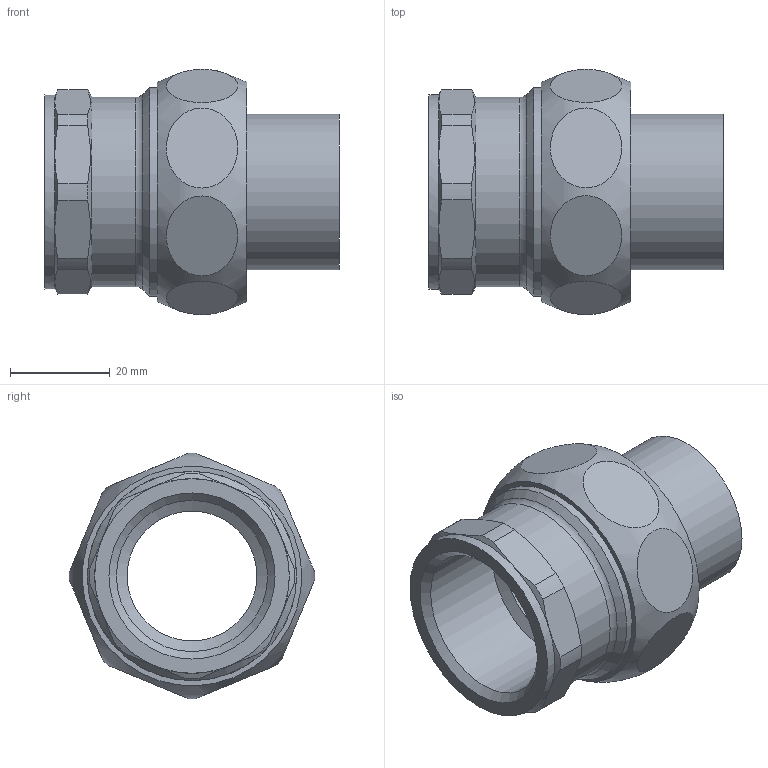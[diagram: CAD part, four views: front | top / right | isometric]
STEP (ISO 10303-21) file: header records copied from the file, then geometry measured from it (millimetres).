
FILE_DESCRIPTION(/* description */ (''),/* implementation_level */ '2;1');
FILE_NAME(/* name */ '\\LG50011\SANHA_Legnica\Engineering\Public\RYSUNKI\SANHA POLSKA\4330g\inventor\14330g_28-1(1).stp',/* time_stamp */ '2018-01-18T07:27:25+01:00',/* author */ ('gomulka'),/* organization */ (''),/* preprocessor_version */ 'ST-DEVELOPER v15.6',/* originating_system */ 'Autodesk Inventor 2015',/* authorisation */ '');
FILE_SCHEMA (('AUTOMOTIVE_DESIGN { 1 0 10303 214 3 1 1 }'));
Length unit declared in the file: millimetre
Products named in the file (5): 14372_28-114(1); 14374_114_338(1); 1DCU114; 14370g-1_114(2); 14330g_28-1(1)
Assembly tree (4 placements, depth 2):
  14330g_28-1(1)
    14372_28-114(1)
    14374_114_338(1)
    1DCU114
    14370g-1_114(2)
Bounding box: 59 x 49.15 x 49.15 mm (x, y, z)
Volume: 35722 mm3; surface area: 21855.8 mm2
Topology: 4 solids, 4 shells, 64 faces, 130 edges, 84 vertices
Faces by surface type: plane 27, cylinder 21, cone 14, bspline 1, torus 1
Full cylindrical faces by diameter (mm): 26 x2, 27 x1, 28 x1, 30.291 x1, 31.2 x1, 33.8 x1, 38 x2, 38.5 x1, 38.952 x1, 39 x1, 41.91 x1
Entity records: 2205 total; most frequent: CARTESIAN_POINT 862, DIRECTION 274, ORIENTED_EDGE 216, AXIS2_PLACEMENT_3D 129, EDGE_CURVE 108, EDGE_LOOP 102, VERTEX_POINT 82, FACE_OUTER_BOUND 64
